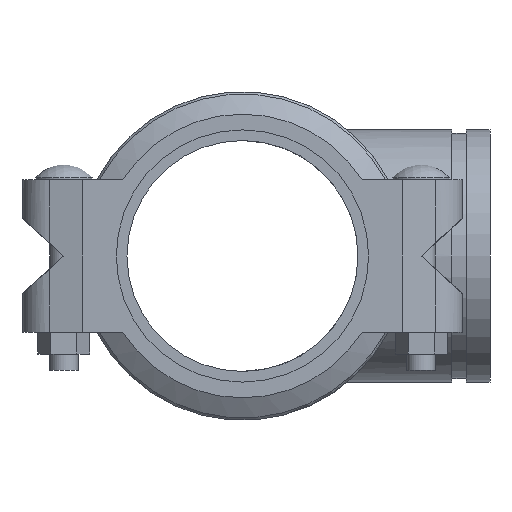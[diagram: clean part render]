
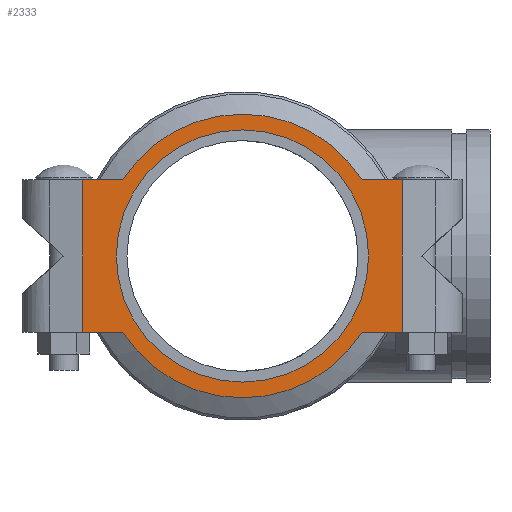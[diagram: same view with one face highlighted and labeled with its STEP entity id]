
A CAD part, left-side view. The second image highlights one B-rep face of the part: STEP entity #2333.
In plain terms, the highlighted planar face has unit normal (-1, 0, 0) as drawn and (0, 0, 1) by its records, which use the part's own axes.
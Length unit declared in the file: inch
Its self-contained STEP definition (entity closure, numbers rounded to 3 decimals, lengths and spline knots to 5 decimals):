
#94=FACE_BOUND('',#372,.T.);
#140=PLANE('',#2634);
#235=FACE_OUTER_BOUND('',#371,.T.);
#371=EDGE_LOOP('',(#1746,#1747,#1748,#1749,#1750,#1751,#1752,#1753));
#372=EDGE_LOOP('',(#1754,#1755));
#519=LINE('',#3784,#688);
#532=LINE('',#3818,#701);
#533=LINE('',#3822,#702);
#534=LINE('',#3824,#703);
#535=LINE('',#3826,#704);
#536=LINE('',#3829,#705);
#688=VECTOR('',#3090,0.3937);
#701=VECTOR('',#3129,0.3937);
#702=VECTOR('',#3132,0.3937);
#703=VECTOR('',#3133,0.3937);
#704=VECTOR('',#3134,0.3937);
#705=VECTOR('',#3137,0.3937);
#852=CIRCLE('',#2635,3.725);
#853=CIRCLE('',#2636,3.725);
#854=CIRCLE('',#2637,3.3125);
#855=CIRCLE('',#2638,3.3125);
#1015=VERTEX_POINT('',#3781);
#1016=VERTEX_POINT('',#3783);
#1024=VERTEX_POINT('',#3817);
#1025=VERTEX_POINT('',#3819);
#1026=VERTEX_POINT('',#3821);
#1027=VERTEX_POINT('',#3823);
#1028=VERTEX_POINT('',#3825);
#1029=VERTEX_POINT('',#3827);
#1030=VERTEX_POINT('',#3830);
#1031=VERTEX_POINT('',#3831);
#1275=EDGE_CURVE('',#1016,#1015,#519,.T.);
#1291=EDGE_CURVE('',#1015,#1024,#532,.T.);
#1292=EDGE_CURVE('',#1025,#1024,#852,.T.);
#1293=EDGE_CURVE('',#1026,#1025,#533,.T.);
#1294=EDGE_CURVE('',#1026,#1027,#534,.T.);
#1295=EDGE_CURVE('',#1027,#1028,#535,.T.);
#1296=EDGE_CURVE('',#1029,#1028,#853,.T.);
#1297=EDGE_CURVE('',#1016,#1029,#536,.T.);
#1298=EDGE_CURVE('',#1030,#1031,#854,.T.);
#1299=EDGE_CURVE('',#1031,#1030,#855,.T.);
#1746=ORIENTED_EDGE('',*,*,#1275,.T.);
#1747=ORIENTED_EDGE('',*,*,#1291,.T.);
#1748=ORIENTED_EDGE('',*,*,#1292,.F.);
#1749=ORIENTED_EDGE('',*,*,#1293,.F.);
#1750=ORIENTED_EDGE('',*,*,#1294,.T.);
#1751=ORIENTED_EDGE('',*,*,#1295,.T.);
#1752=ORIENTED_EDGE('',*,*,#1296,.F.);
#1753=ORIENTED_EDGE('',*,*,#1297,.F.);
#1754=ORIENTED_EDGE('',*,*,#1298,.T.);
#1755=ORIENTED_EDGE('',*,*,#1299,.T.);
#2333=ADVANCED_FACE('',(#235,#94),#140,.T.);
#2634=AXIS2_PLACEMENT_3D('',#3816,#3127,#3128);
#2635=AXIS2_PLACEMENT_3D('',#3820,#3130,#3131);
#2636=AXIS2_PLACEMENT_3D('',#3828,#3135,#3136);
#2637=AXIS2_PLACEMENT_3D('',#3832,#3138,#3139);
#2638=AXIS2_PLACEMENT_3D('',#3833,#3140,#3141);
#3090=DIRECTION('',(0.,-1.,0.));
#3127=DIRECTION('center_axis',(0.,0.,1.));
#3128=DIRECTION('ref_axis',(1.,0.,0.));
#3129=DIRECTION('',(1.,0.,0.));
#3130=DIRECTION('center_axis',(0.,0.,-1.));
#3131=DIRECTION('ref_axis',(-1.,0.,0.));
#3132=DIRECTION('',(-1.,0.,0.));
#3133=DIRECTION('',(0.,1.,0.));
#3134=DIRECTION('',(-1.,0.,0.));
#3135=DIRECTION('center_axis',(0.,0.,-1.));
#3136=DIRECTION('ref_axis',(-1.,0.,0.));
#3137=DIRECTION('',(1.,0.,0.));
#3138=DIRECTION('center_axis',(0.,0.,-1.));
#3139=DIRECTION('ref_axis',(-1.,0.,0.));
#3140=DIRECTION('center_axis',(0.,0.,-1.));
#3141=DIRECTION('ref_axis',(-1.,0.,0.));
#3781=CARTESIAN_POINT('',(-4.2,-2.,1.19));
#3783=CARTESIAN_POINT('',(-4.2,2.,1.19));
#3784=CARTESIAN_POINT('',(-4.2,2.8625,1.19));
#3816=CARTESIAN_POINT('Origin',(0.,3.725,1.19));
#3817=CARTESIAN_POINT('',(-3.14255,-2.,1.19));
#3818=CARTESIAN_POINT('',(-5.78927,-2.,1.19));
#3819=CARTESIAN_POINT('',(3.14255,-2.,1.19));
#3820=CARTESIAN_POINT('Origin',(0.,0.,1.19));
#3821=CARTESIAN_POINT('',(4.2,-2.,1.19));
#3822=CARTESIAN_POINT('',(5.78927,-2.,1.19));
#3823=CARTESIAN_POINT('',(4.2,2.,1.19));
#3824=CARTESIAN_POINT('',(4.2,2.8625,1.19));
#3825=CARTESIAN_POINT('',(3.14255,2.,1.19));
#3826=CARTESIAN_POINT('',(5.78927,2.,1.19));
#3827=CARTESIAN_POINT('',(-3.14255,2.,1.19));
#3828=CARTESIAN_POINT('Origin',(0.,0.,1.19));
#3829=CARTESIAN_POINT('',(-5.78927,2.,1.19));
#3830=CARTESIAN_POINT('',(0.,3.3125,1.19));
#3831=CARTESIAN_POINT('',(0.,-3.3125,1.19));
#3832=CARTESIAN_POINT('Origin',(0.,0.,1.19));
#3833=CARTESIAN_POINT('Origin',(0.,0.,1.19));
